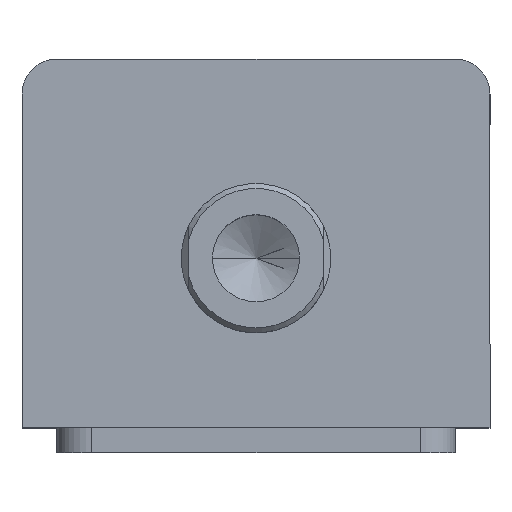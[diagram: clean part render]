
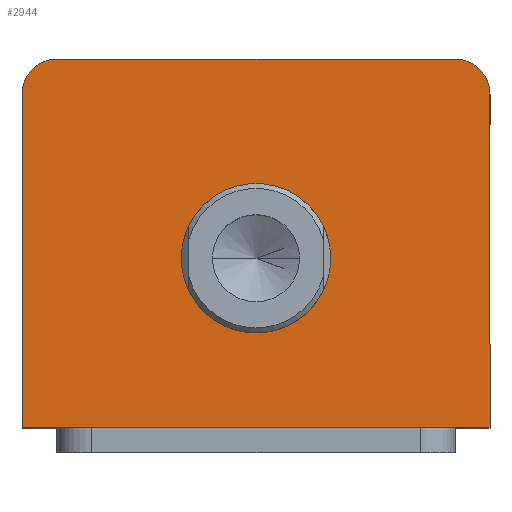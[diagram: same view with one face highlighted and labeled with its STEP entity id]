
A CAD part, top view. The second image highlights one B-rep face of the part: STEP entity #2944.
In plain terms, the highlighted planar face has unit normal (0, 0, 1).
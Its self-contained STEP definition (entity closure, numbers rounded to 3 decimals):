
#87 = ORIENTED_EDGE ( 'NONE', *, *, #811, .T. ) ;
#88 = ORIENTED_EDGE ( 'NONE', *, *, #2897, .T. ) ;
#89 = ORIENTED_EDGE ( 'NONE', *, *, #2924, .T. ) ;
#90 = ORIENTED_EDGE ( 'NONE', *, *, #827, .F. ) ;
#119 = CIRCLE ( 'NONE', #787, 7. ) ;
#133 = LINE ( 'NONE', #1072, #136 ) ;
#136 = VECTOR ( 'NONE', #1071, 1000. ) ;
#165 = CIRCLE ( 'NONE', #780, 15. ) ;
#219 = CIRCLE ( 'NONE', #762, 15. ) ;
#256 = LINE ( 'NONE', #1663, #259 ) ;
#259 = VECTOR ( 'NONE', #1669, 1000. ) ;
#280 = CIRCLE ( 'NONE', #743, 7. ) ;
#384 = LINE ( 'NONE', #1622, #389 ) ;
#389 = VECTOR ( 'NONE', #1621, 1000. ) ;
#427 = LINE ( 'NONE', #2659, #429 ) ;
#429 = VECTOR ( 'NONE', #2661, 1000. ) ;
#440 = FACE_BOUND ( 'NONE', #1162, .T. ) ;
#447 = FACE_OUTER_BOUND ( 'NONE', #1167, .T. ) ;
#613 = AXIS2_PLACEMENT_3D ( 'NONE', #2803, #2848, #2835 ) ;
#743 = AXIS2_PLACEMENT_3D ( 'NONE', #1892, #1890, #1888 ) ;
#762 = AXIS2_PLACEMENT_3D ( 'NONE', #1795, #1794, #1791 ) ;
#780 = AXIS2_PLACEMENT_3D ( 'NONE', #1042, #1041, #1040 ) ;
#787 = AXIS2_PLACEMENT_3D ( 'NONE', #1099, #1098, #1097 ) ;
#801 = EDGE_CURVE ( 'NONE', #1264, #1313, #119, .T. ) ;
#811 = EDGE_CURVE ( 'NONE', #1313, #1212, #133, .T. ) ;
#827 = EDGE_CURVE ( 'NONE', #1309, #1308, #165, .T. ) ;
#906 = CARTESIAN_POINT ( 'NONE',  ( -47., 30., 65. ) ) ;
#910 = CARTESIAN_POINT ( 'NONE',  ( 15., -3., 65. ) ) ;
#911 = CARTESIAN_POINT ( 'NONE',  ( -15., -3., 65. ) ) ;
#944 = CARTESIAN_POINT ( 'NONE',  ( 47., -37., 65. ) ) ;
#956 = CARTESIAN_POINT ( 'NONE',  ( -40., 37., 65. ) ) ;
#974 = CARTESIAN_POINT ( 'NONE',  ( 40., 37., 65. ) ) ;
#997 = CARTESIAN_POINT ( 'NONE',  ( 47., 30., 65. ) ) ;
#1007 = CARTESIAN_POINT ( 'NONE',  ( -47., -37., 65. ) ) ;
#1040 = DIRECTION ( 'NONE',  ( 1., 0., 0. ) ) ;
#1041 = DIRECTION ( 'NONE',  ( 0., 0., 1. ) ) ;
#1042 = CARTESIAN_POINT ( 'NONE',  ( 0., -3., 65. ) ) ;
#1071 = DIRECTION ( 'NONE',  ( 0., -1., 0. ) ) ;
#1072 = CARTESIAN_POINT ( 'NONE',  ( -47., 37., 65. ) ) ;
#1097 = DIRECTION ( 'NONE',  ( 1., 0., 0. ) ) ;
#1098 = DIRECTION ( 'NONE',  ( 0., 0., 1. ) ) ;
#1099 = CARTESIAN_POINT ( 'NONE',  ( -40., 30., 65. ) ) ;
#1162 = EDGE_LOOP ( 'NONE', ( #90, #2096 ) ) ;
#1167 = EDGE_LOOP ( 'NONE', ( #89, #2063, #87, #2064, #88, #2259 ) ) ;
#1212 = VERTEX_POINT ( 'NONE', #1007 ) ;
#1224 = VERTEX_POINT ( 'NONE', #997 ) ;
#1246 = VERTEX_POINT ( 'NONE', #974 ) ;
#1264 = VERTEX_POINT ( 'NONE', #956 ) ;
#1276 = VERTEX_POINT ( 'NONE', #944 ) ;
#1308 = VERTEX_POINT ( 'NONE', #911 ) ;
#1309 = VERTEX_POINT ( 'NONE', #910 ) ;
#1313 = VERTEX_POINT ( 'NONE', #906 ) ;
#1621 = DIRECTION ( 'NONE',  ( 0., 1., 0. ) ) ;
#1622 = CARTESIAN_POINT ( 'NONE',  ( 47., 37., 65. ) ) ;
#1663 = CARTESIAN_POINT ( 'NONE',  ( -47., -37., 65. ) ) ;
#1669 = DIRECTION ( 'NONE',  ( 1., 0., 0. ) ) ;
#1791 = DIRECTION ( 'NONE',  ( 1., 0., 0. ) ) ;
#1794 = DIRECTION ( 'NONE',  ( 0., 0., 1. ) ) ;
#1795 = CARTESIAN_POINT ( 'NONE',  ( 0., -3., 65. ) ) ;
#1888 = DIRECTION ( 'NONE',  ( 1., 0., 0. ) ) ;
#1890 = DIRECTION ( 'NONE',  ( 0., 0., 1. ) ) ;
#1892 = CARTESIAN_POINT ( 'NONE',  ( 40., 30., 65. ) ) ;
#1960 = EDGE_CURVE ( 'NONE', #1308, #1309, #219, .T. ) ;
#1982 = EDGE_CURVE ( 'NONE', #1212, #1276, #256, .T. ) ;
#2001 = EDGE_CURVE ( 'NONE', #1224, #1246, #280, .T. ) ;
#2063 = ORIENTED_EDGE ( 'NONE', *, *, #801, .T. ) ;
#2064 = ORIENTED_EDGE ( 'NONE', *, *, #1982, .T. ) ;
#2096 = ORIENTED_EDGE ( 'NONE', *, *, #1960, .F. ) ;
#2259 = ORIENTED_EDGE ( 'NONE', *, *, #2001, .T. ) ;
#2659 = CARTESIAN_POINT ( 'NONE',  ( -47., 37., 65. ) ) ;
#2661 = DIRECTION ( 'NONE',  ( -1., 0., 0. ) ) ;
#2774 = PLANE ( 'NONE',  #613 ) ;
#2803 = CARTESIAN_POINT ( 'NONE',  ( 0., 0., 65. ) ) ;
#2835 = DIRECTION ( 'NONE',  ( 1., 0., 0. ) ) ;
#2848 = DIRECTION ( 'NONE',  ( 0., 0., 1. ) ) ;
#2897 = EDGE_CURVE ( 'NONE', #1276, #1224, #384, .T. ) ;
#2924 = EDGE_CURVE ( 'NONE', #1246, #1264, #427, .T. ) ;
#2944 = ADVANCED_FACE ( 'NONE', ( #440, #447 ), #2774, .T. ) ;
